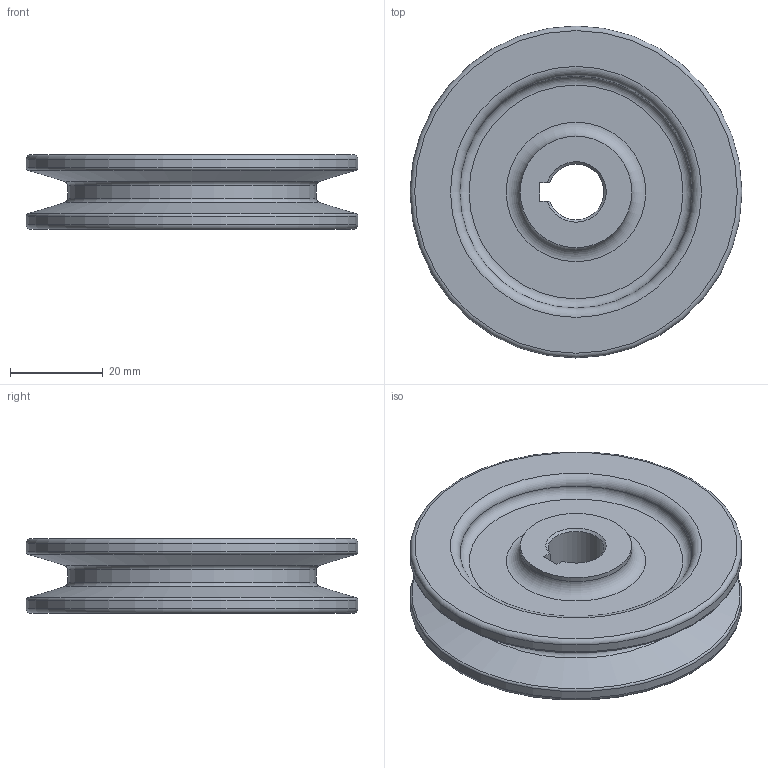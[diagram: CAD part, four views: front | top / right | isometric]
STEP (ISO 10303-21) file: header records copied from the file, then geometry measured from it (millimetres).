
FILE_DESCRIPTION(/* description */ (''),/* implementation_level */ '2;1');
FILE_NAME(/* name */ '',/* time_stamp */ '2024-08-02T13:51:34+09:00',/* author */ ('jhkim'),/* organization */ (''),/* preprocessor_version */ 'ST-DEVELOPER v20',/* originating_system */ 'Autodesk Inventor 2025',/* authorisation */ '');
FILE_SCHEMA (('AUTOMOTIVE_DESIGN { 1 0 10303 214 3 1 1 }'));
Length unit declared in the file: millimetre
Products named in the file (1): V-벨트풀리
Bounding box: 71.4 x 71.4 x 16 mm (x, y, z)
Volume: 37852.7 mm3; surface area: 15053.3 mm2
Topology: 1 solids, 1 shells, 31 faces, 74 edges, 49 vertices
Faces by surface type: torus 12, plane 9, cylinder 6, cone 4
Full cylindrical faces by diameter (mm): 24 x2, 53.4 x1, 71.4 x2
Entity records: 976 total; most frequent: DIRECTION 187, CARTESIAN_POINT 163, ORIENTED_EDGE 148, AXIS2_PLACEMENT_3D 85, EDGE_CURVE 74, CIRCLE 53, VERTEX_POINT 49, EDGE_LOOP 37
